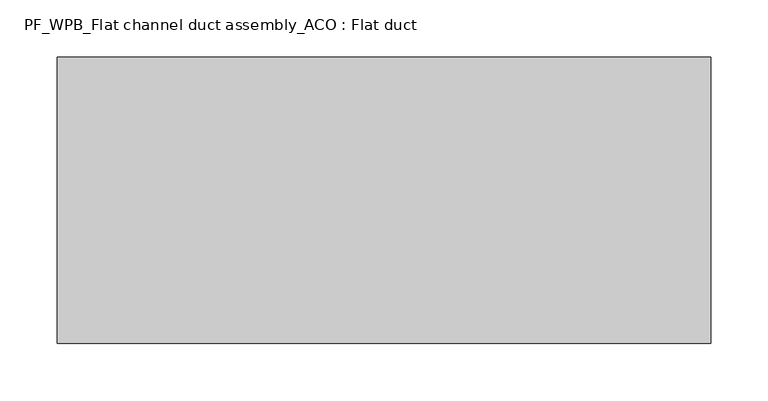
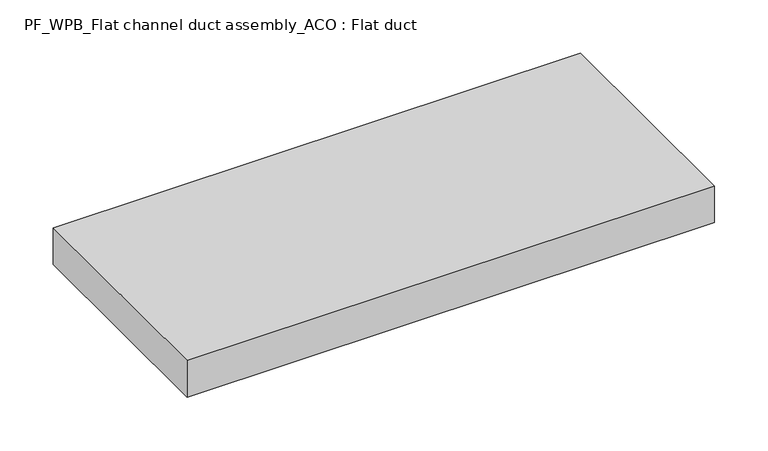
"""IFC4 building model written with IfcOpenShell, lengths in millimetres: sanitary terminal geometry, PF_WPB_Flat channel duct assembly_ACO : Flat duct."""

from ifc_helpers import new_model, si_unit, frame, origin, place, context, project, spatial, polyline, outline, extrude, source, transform, mapped, element, save


def pf_wpb_flat_channel_duct_assembly_aco_flat_duct_9dd146ba(model_context):
    return source(origin(), model_context, "Body", "SweptSolid", [
        extrude(outline(polyline([(570.0, 125.0), (570.0, -125.0), (0.0, -125.0), (0.0, 125.0), (570.0, 125.0)])), frame((0.0, 0.0, -42.0), z_axis=(0.0, 0.0, 1.0), x_axis=(1.0, 0.0, 0.0)), (0.0, 0.0, 1.0), 42.0),
    ])


if __name__ == "__main__":
    model = new_model("IFC4")
    model_context = context("Model", 3, world=origin())
    ifc_project = project(units=[si_unit("LENGTHUNIT", "METRE", prefix="MILLI")], contexts=[model_context])
    site = spatial("IfcSite", under=ifc_project)
    building = spatial("IfcBuilding", under=site)
    placement = place(None, origin())
    pf_wpb_flat_channel_duct_assembly_aco_flat_duct_shape = pf_wpb_flat_channel_duct_assembly_aco_flat_duct_9dd146ba(model_context)
    element("IfcSanitaryTerminal", 1, ObjectType="PF_WPB_Flat channel duct assembly_ACO : Flat duct", at=placement, inside=building, context=model_context, shape_type="MappedRepresentation", body=[
        mapped(pf_wpb_flat_channel_duct_assembly_aco_flat_duct_shape, transform((0.0, 0.0, 0.0), x_axis=(1.0, 0.0, 0.0), y_axis=(0.0, 1.0, 0.0), z_axis=(0.0, 0.0, 1.0))),
    ])
    save(model, "model.ifc")
